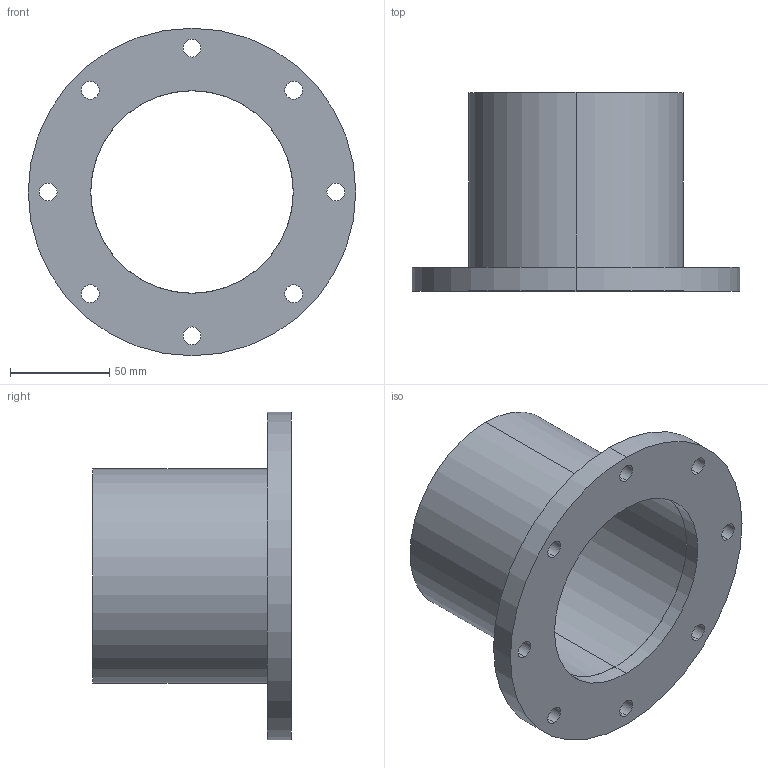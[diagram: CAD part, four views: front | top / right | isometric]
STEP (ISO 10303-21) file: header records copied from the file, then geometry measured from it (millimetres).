
FILE_DESCRIPTION (( 'STEP AP214' ), '1' );
FILE_NAME ('W5KR100.STEP', '2019-04-05T06:50:45', ( '' ), ( '' ), 'SwSTEP 2.0', 'SolidWorks 2018', '' );
FILE_SCHEMA (( 'AUTOMOTIVE_DESIGN' ));
Length unit declared in the file: millimetre
Products named in the file (1): W5KR100
Bounding box: 165 x 100 x 165 mm (x, y, z)
Volume: 239043.6 mm3; surface area: 100911.4 mm2
Topology: 2 solids, 2 shells, 31 faces, 78 edges, 52 vertices
Faces by surface type: cylinder 26, plane 5
Entity records: 1047 total; most frequent: DIRECTION 194, CARTESIAN_POINT 162, ORIENTED_EDGE 156, AXIS2_PLACEMENT_3D 84, EDGE_CURVE 78, EDGE_LOOP 52, VERTEX_POINT 52, CIRCLE 52
